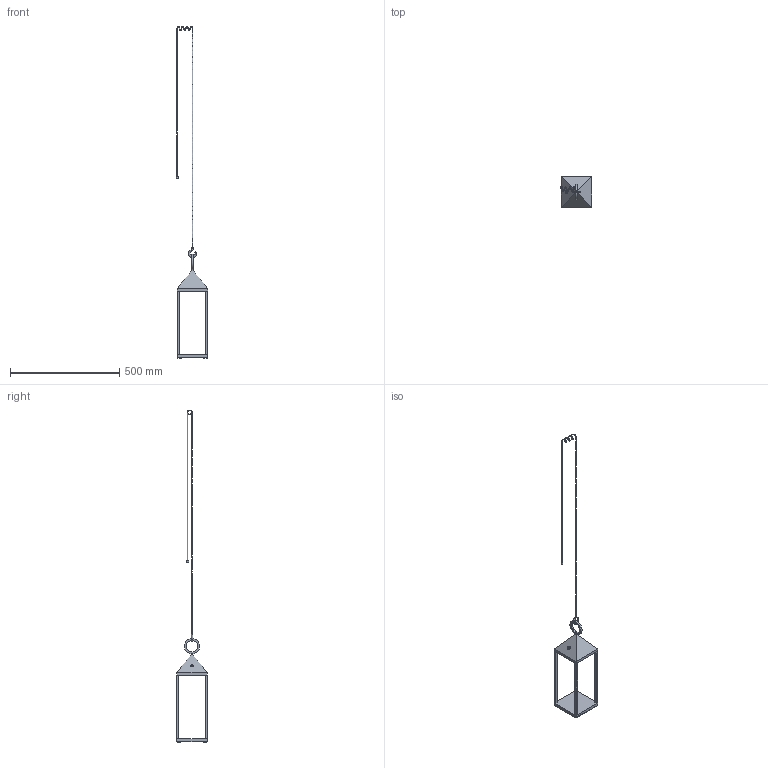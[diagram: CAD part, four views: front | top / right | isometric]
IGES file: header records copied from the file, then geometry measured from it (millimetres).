
Start section: SolidWorks IGES file using analytic representation for surfaces
Global section: file name: X:\PRODUKT\Modele 3D_WWW\_KOLEKCJE WWW\HANGING-SET-FOR-PICNIC-8106-8107\HANGING-SET-FOR-PICNIC-8106-8107.IGS; native system: SolidWorks 2021; preprocessor: SolidWorks 2021; author: gabriela.tworek; date: 221222.103602; units: millimetre
Bounding box: 144.73 x 140 x 1516.75 mm (x, y, z)
Surface area: 218249.7 mm2 (no closed solid volume)
Topology: 0 solids, 0 shells, 271 faces, 1187 edges, 1176 vertices
Faces by surface type: bspline 250, revolution 21
